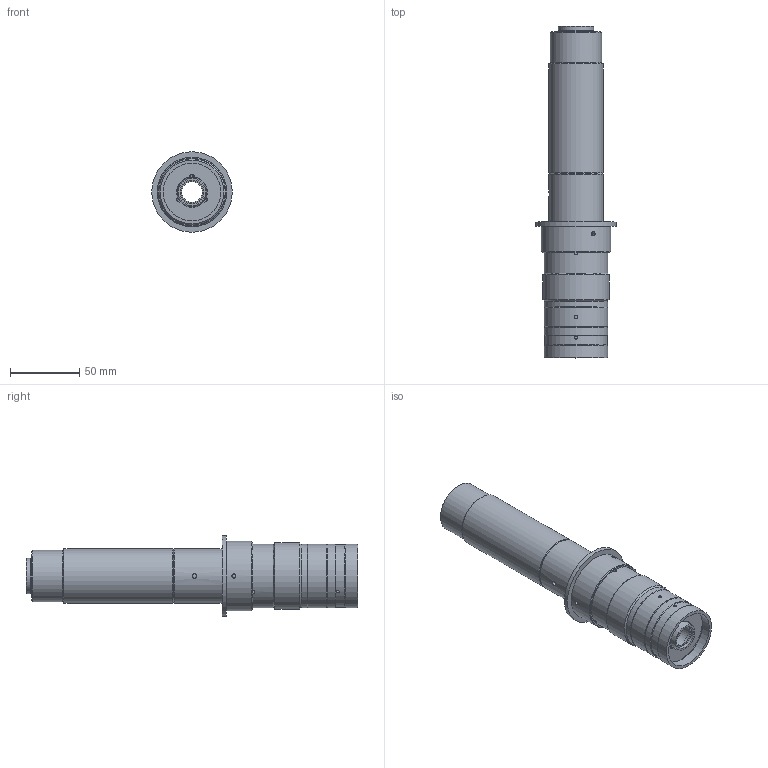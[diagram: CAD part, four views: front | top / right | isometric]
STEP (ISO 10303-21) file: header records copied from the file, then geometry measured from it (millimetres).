
FILE_DESCRIPTION(/* description */ (''),/* implementation_level */ '2;1');
FILE_NAME(/* name */ 'MZ45A-1X',/* time_stamp */ '2025-12-10T08:29:35+08:00',/* author */ (''),/* organization */ (''),/* preprocessor_version */ 'ST-DEVELOPER v9',/* originating_system */ 'UGS - NX 4.0',/* authorisation */ '');
FILE_SCHEMA (('AUTOMOTIVE_DESIGN { 1 0 10303 214 1 1 1 1 }'));
Length unit declared in the file: millimetre
Products named in the file (1): Admi570012ka
Bounding box: 58 x 239.3 x 58 mm (x, y, z)
Volume: 209503.2 mm3; surface area: 99069.7 mm2
Topology: 9 solids, 9 shells, 171 faces, 345 edges, 223 vertices
Faces by surface type: cylinder 91, plane 61, cone 19
Full cylindrical faces by diameter (mm): 1.6 x7, 2 x3, 2.5 x7, 3 x3, 3.2 x1, 15 x1, 16 x1, 17 x1, 17.5 x1, 18 x1, 18.999 x1, 19 x6, 20 x1, 22 x2, 22.2 x1, 23.5 x1, 24 x2, 24.5 x1, 25 x3, 25.4 x2, 26 x1, 26.376 x1, 26.5 x1, 27 x2, 28 x5, 28.3 x1, 29 x2, 30 x2, 31.5 x1, 32 x1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
Entity records: 5993 total; most frequent: CARTESIAN_POINT 2769, DIRECTION 662, ORIENTED_EDGE 422, EDGE_LOOP 366, AXIS2_PLACEMENT_3D 325, FACE_BOUND 280, EDGE_CURVE 211, VERTEX_POINT 199
